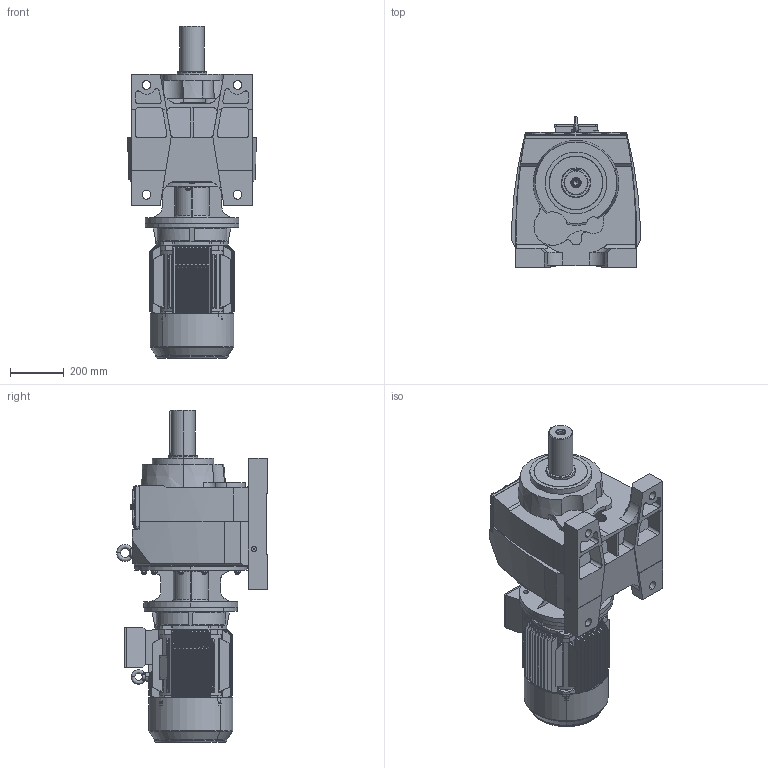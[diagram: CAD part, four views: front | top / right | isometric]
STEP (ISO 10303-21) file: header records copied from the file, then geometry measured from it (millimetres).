
FILE_DESCRIPTION (( 'STEP AP203' ), '1' );
FILE_NAME ('MV772-MV773-M3-160M.STEP', '2019-07-24T08:22:17', ( '' ), ( '' ), 'SwSTEP 2.0', 'SolidWorks 2012', '' );
FILE_SCHEMA (( 'CONFIG_CONTROL_DESIGN' ));
Products named in the file (15): MV772-MV773-M3-160M; Y2-160M+À+¿(B5)_-++ñ; Y2-160_shaft; M3-160M-FF-B5; Y2-160-2ª¥--®+_-++ñ; Y2-160-180ñ»ª­®+_-++ñ; Y2-160ñ»ª­+¿_-++ñ; +ª+§ªiY2-160ñ»ª­_-++ñ; MN_77_3_0_A-B16_B5_ML7A_0_0_0_0_0_0_0_0_0_0_0_0_M1; +¦i-MN2-160_-++ñ; Eyebolts GB_GB_FASTENER_SCREWS_FRS M12; Y2-160-4Ý¾6Ý¾8-ª+---®+_-++ñ; M773_Varsayìlan; 73160B5_Varsayìlan; ML7A_Varsayìlan
Assembly tree (14 placements, depth 4):
  MV772-MV773-M3-160M
    MN_77_3_0_A-B16_B5_ML7A_0_0_0_0_0_0_0_0_0_0_0_0_M1
      M773_Varsayìlan
      73160B5_Varsayìlan
      ML7A_Varsayìlan
    M3-160M-FF-B5
      Eyebolts GB_GB_FASTENER_SCREWS_FRS M12
      Y2-160-4Ý¾6Ý¾8-ª+---®+_-++ñ
      +¦i-MN2-160_-++ñ
      Y2-160-2ª¥--®+_-++ñ
      +ª+§ªiY2-160ñ»ª­_-++ñ
        Y2-160-180ñ»ª­®+_-++ñ
        Y2-160ñ»ª­+¿_-++ñ
      Y2-160M+À+¿(B5)_-++ñ
      Y2-160_shaft
Bounding box: 480 x 563 x 1240 mm (x, y, z)
Volume: 84504685.3 mm3; surface area: 4366951.2 mm2
Topology: 11 solids, 11 shells, 2411 faces, 6207 edges, 3910 vertices
Faces by surface type: plane 848, cylinder 810, cone 405, bspline 245, torus 63, sphere 40
Entity records: 118403 total; most frequent: CARTESIAN_POINT 61885, ORIENTED_EDGE 12318, DIRECTION 10160, EDGE_CURVE 6159, VERTEX_POINT 3895, AXIS2_PLACEMENT_3D 3793, EDGE_LOOP 2664, LINE 2574
